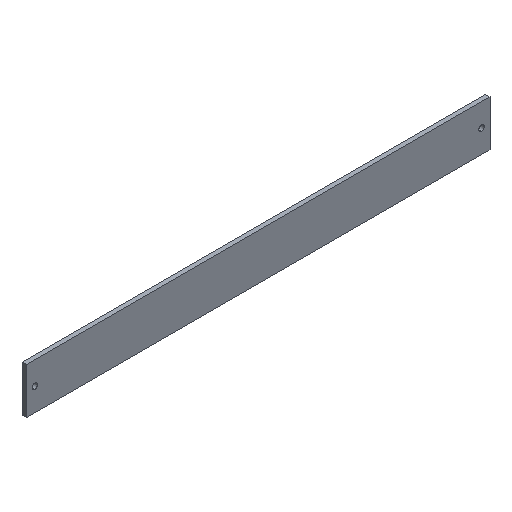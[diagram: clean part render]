
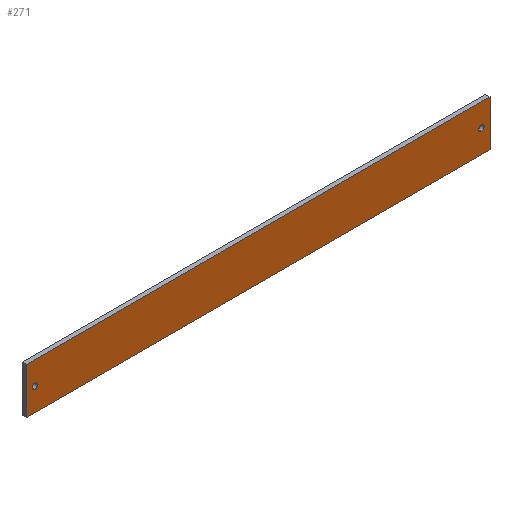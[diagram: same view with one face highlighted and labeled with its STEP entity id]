
A CAD part, isometric view. The second image highlights one B-rep face of the part: STEP entity #271.
In plain terms, the highlighted planar face has unit normal (0, -1, 0).
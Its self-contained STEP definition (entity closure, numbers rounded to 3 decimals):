
#3 = CIRCLE ( 'NONE', #322, 1.25 ) ;
#11 = CIRCLE ( 'NONE', #210, 1.25 ) ;
#24 = CARTESIAN_POINT ( 'NONE',  ( -106., -1., 10.5 ) ) ;
#25 = CIRCLE ( 'NONE', #217, 1.25 ) ;
#30 = DIRECTION ( 'NONE',  ( 0., 1., 0. ) ) ;
#35 = DIRECTION ( 'NONE',  ( 0., 1., 0. ) ) ;
#39 = ORIENTED_EDGE ( 'NONE', *, *, #253, .F. ) ;
#45 = DIRECTION ( 'NONE',  ( 0., 1., 0. ) ) ;
#48 = ORIENTED_EDGE ( 'NONE', *, *, #276, .F. ) ;
#49 = CARTESIAN_POINT ( 'NONE',  ( 106., -1., 10.5 ) ) ;
#56 = VERTEX_POINT ( 'NONE', #343 ) ;
#65 = VERTEX_POINT ( 'NONE', #234 ) ;
#68 = VERTEX_POINT ( 'NONE', #228 ) ;
#73 = PLANE ( 'NONE',  #347 ) ;
#76 = DIRECTION ( 'NONE',  ( 0., 0., 1. ) ) ;
#78 = EDGE_CURVE ( 'NONE', #180, #301, #318, .T. ) ;
#79 = ORIENTED_EDGE ( 'NONE', *, *, #139, .T. ) ;
#85 = EDGE_CURVE ( 'NONE', #56, #203, #336, .T. ) ;
#92 = CARTESIAN_POINT ( 'NONE',  ( -102.1, -1., 0. ) ) ;
#95 = ORIENTED_EDGE ( 'NONE', *, *, #78, .F. ) ;
#108 = CARTESIAN_POINT ( 'NONE',  ( 106., -1., -10.5 ) ) ;
#110 = ORIENTED_EDGE ( 'NONE', *, *, #135, .F. ) ;
#112 = CARTESIAN_POINT ( 'NONE',  ( -102.1, -1., -1.25 ) ) ;
#114 = VECTOR ( 'NONE', #173, 1000. ) ;
#119 = CARTESIAN_POINT ( 'NONE',  ( 102.1, -1., 0. ) ) ;
#128 = ORIENTED_EDGE ( 'NONE', *, *, #195, .T. ) ;
#134 = LINE ( 'NONE', #24, #166 ) ;
#135 = EDGE_CURVE ( 'NONE', #212, #258, #256, .T. ) ;
#139 = EDGE_CURVE ( 'NONE', #203, #56, #25, .T. ) ;
#140 = DIRECTION ( 'NONE',  ( 0., 0., 1. ) ) ;
#141 = DIRECTION ( 'NONE',  ( 0., 1., 0. ) ) ;
#145 = DIRECTION ( 'NONE',  ( 0., 0., 1. ) ) ;
#146 = EDGE_LOOP ( 'NONE', ( #344, #128 ) ) ;
#150 = CARTESIAN_POINT ( 'NONE',  ( -106., -1., -10.5 ) ) ;
#163 = DIRECTION ( 'NONE',  ( 0., 0., 1. ) ) ;
#166 = VECTOR ( 'NONE', #345, 1000. ) ;
#171 = DIRECTION ( 'NONE',  ( 0., 0., 1. ) ) ;
#173 = DIRECTION ( 'NONE',  ( 1., 0., 0. ) ) ;
#180 = VERTEX_POINT ( 'NONE', #294 ) ;
#193 = VECTOR ( 'NONE', #298, 1000. ) ;
#195 = EDGE_CURVE ( 'NONE', #65, #68, #3, .T. ) ;
#201 = CARTESIAN_POINT ( 'NONE',  ( -102.1, -1., 0. ) ) ;
#202 = EDGE_CURVE ( 'NONE', #68, #65, #11, .T. ) ;
#203 = VERTEX_POINT ( 'NONE', #112 ) ;
#204 = DIRECTION ( 'NONE',  ( -1., 0., 0. ) ) ;
#210 = AXIS2_PLACEMENT_3D ( 'NONE', #119, #141, #140 ) ;
#212 = VERTEX_POINT ( 'NONE', #288 ) ;
#216 = FACE_BOUND ( 'NONE', #232, .T. ) ;
#217 = AXIS2_PLACEMENT_3D ( 'NONE', #92, #313, #145 ) ;
#228 = CARTESIAN_POINT ( 'NONE',  ( 102.1, -1., 1.25 ) ) ;
#232 = EDGE_LOOP ( 'NONE', ( #317, #79 ) ) ;
#234 = CARTESIAN_POINT ( 'NONE',  ( 102.1, -1., -1.25 ) ) ;
#239 = VECTOR ( 'NONE', #204, 1000. ) ;
#240 = CARTESIAN_POINT ( 'NONE',  ( 106., -1., 10.5 ) ) ;
#242 = FACE_BOUND ( 'NONE', #146, .T. ) ;
#243 = FACE_OUTER_BOUND ( 'NONE', #325, .T. ) ;
#253 = EDGE_CURVE ( 'NONE', #301, #212, #134, .T. ) ;
#256 = LINE ( 'NONE', #290, #114 ) ;
#258 = VERTEX_POINT ( 'NONE', #49 ) ;
#271 = ADVANCED_FACE ( 'NONE', ( #216, #242, #243 ), #73, .F. ) ;
#272 = LINE ( 'NONE', #240, #193 ) ;
#276 = EDGE_CURVE ( 'NONE', #258, #180, #272, .T. ) ;
#283 = AXIS2_PLACEMENT_3D ( 'NONE', #201, #35, #163 ) ;
#288 = CARTESIAN_POINT ( 'NONE',  ( -106., -1., 10.5 ) ) ;
#290 = CARTESIAN_POINT ( 'NONE',  ( 106., -1., 10.5 ) ) ;
#294 = CARTESIAN_POINT ( 'NONE',  ( 106., -1., -10.5 ) ) ;
#298 = DIRECTION ( 'NONE',  ( 0., 0., -1. ) ) ;
#301 = VERTEX_POINT ( 'NONE', #150 ) ;
#306 = CARTESIAN_POINT ( 'NONE',  ( 102.1, -1., 0. ) ) ;
#313 = DIRECTION ( 'NONE',  ( 0., 1., 0. ) ) ;
#317 = ORIENTED_EDGE ( 'NONE', *, *, #85, .T. ) ;
#318 = LINE ( 'NONE', #108, #239 ) ;
#322 = AXIS2_PLACEMENT_3D ( 'NONE', #306, #30, #171 ) ;
#325 = EDGE_LOOP ( 'NONE', ( #39, #95, #48, #110 ) ) ;
#330 = CARTESIAN_POINT ( 'NONE',  ( -106., -1., -10.5 ) ) ;
#336 = CIRCLE ( 'NONE', #283, 1.25 ) ;
#343 = CARTESIAN_POINT ( 'NONE',  ( -102.1, -1., 1.25 ) ) ;
#344 = ORIENTED_EDGE ( 'NONE', *, *, #202, .T. ) ;
#345 = DIRECTION ( 'NONE',  ( 0., 0., 1. ) ) ;
#347 = AXIS2_PLACEMENT_3D ( 'NONE', #330, #45, #76 ) ;
